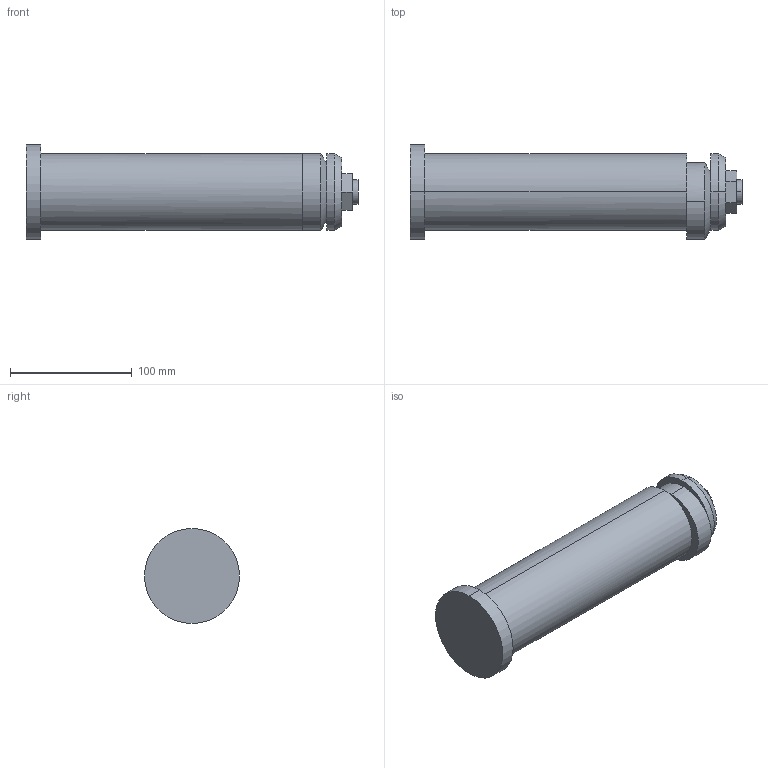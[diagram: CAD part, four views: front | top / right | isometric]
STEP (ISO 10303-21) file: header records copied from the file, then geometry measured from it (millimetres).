
FILE_DESCRIPTION(('CATIA V5 STEP Exchange'),'2;1');
FILE_NAME('C:\Users\Raffaele\Desktop\3D X SITO CF\PERNI -STAFFE SOLLEVAMENTO\395PSF\GSB_OILLESS_C10302063215\STEP-2.03\395PSF-8.stp','2019-07-03T09:20:35+00:00',('none'),('none'),'CATIA Version 5 Release 20 GA (IN-10)','CATIA V5 STEP AP203','none');
FILE_SCHEMA(('CONFIG_CONTROL_DESIGN'));
Length unit declared in the file: millimetre
Products named in the file (1): 395PSF-8
Bounding box: 272.5 x 78 x 78 mm (x, y, z)
Volume: 807688.3 mm3; surface area: 71354.1 mm2
Topology: 1 solids, 2 shells, 34 faces, 100 edges, 74 vertices
Faces by surface type: plane 16, cylinder 14, cone 4
Entity records: 1370 total; most frequent: CARTESIAN_POINT 429, ORIENTED_EDGE 200, DIRECTION 151, EDGE_CURVE 100, AXIS2_PLACEMENT_3D 82, VERTEX_POINT 74, CIRCLE 47, EDGE_LOOP 40
